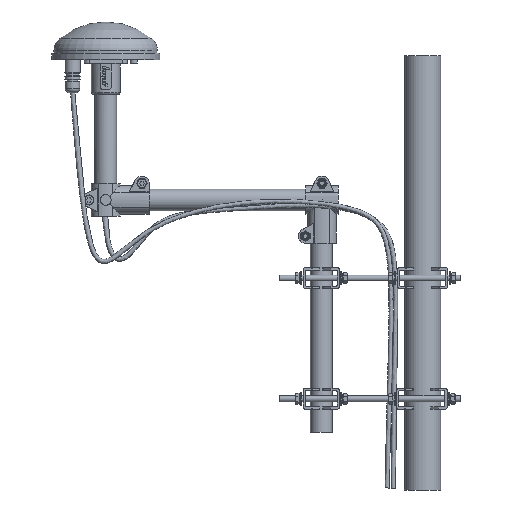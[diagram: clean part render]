
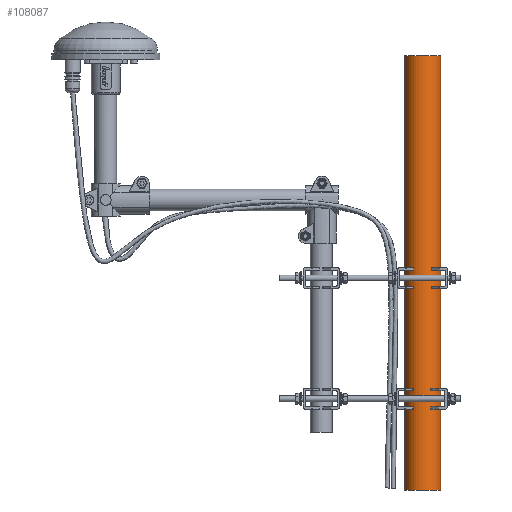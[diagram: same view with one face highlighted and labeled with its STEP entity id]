
A CAD part, front view. The second image highlights one B-rep face of the part: STEP entity #108087.
In plain terms, the highlighted cylindrical face has radius 25 mm (diameter 50 mm), a full revolution.
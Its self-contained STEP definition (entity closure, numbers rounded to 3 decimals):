
#108033 = PLANE('',#108034);
#108034 = AXIS2_PLACEMENT_3D('',#108035,#108036,#108037);
#108035 = CARTESIAN_POINT('',(0.,0.,600.));
#108036 = DIRECTION('',(-0.,0.,-1.));
#108037 = DIRECTION('',(1.,0.,-0.));
#108059 = EDGE_CURVE('',#108060,#108060,#108062,.T.);
#108060 = VERTEX_POINT('',#108061);
#108061 = CARTESIAN_POINT('',(25.,0.,600.));
#108062 = SURFACE_CURVE('',#108063,(#108068,#108075),.PCURVE_S1.);
#108063 = CIRCLE('',#108064,25.);
#108064 = AXIS2_PLACEMENT_3D('',#108065,#108066,#108067);
#108065 = CARTESIAN_POINT('',(0.,0.,600.));
#108066 = DIRECTION('',(0.,0.,-1.));
#108067 = DIRECTION('',(1.,0.,0.));
#108068 = PCURVE('',#108033,#108069);
#108069 = DEFINITIONAL_REPRESENTATION('',(#108070),#108074);
#108070 = CIRCLE('',#108071,25.);
#108071 = AXIS2_PLACEMENT_2D('',#108072,#108073);
#108072 = CARTESIAN_POINT('',(0.,0.));
#108073 = DIRECTION('',(1.,0.));
#108074 = ( GEOMETRIC_REPRESENTATION_CONTEXT(2) 
PARAMETRIC_REPRESENTATION_CONTEXT() REPRESENTATION_CONTEXT('2D SPACE',''
  ) );
#108075 = PCURVE('',#108076,#108081);
#108076 = CYLINDRICAL_SURFACE('',#108077,25.);
#108077 = AXIS2_PLACEMENT_3D('',#108078,#108079,#108080);
#108078 = CARTESIAN_POINT('',(0.,0.,600.));
#108079 = DIRECTION('',(-0.,0.,-1.));
#108080 = DIRECTION('',(1.,0.,0.));
#108081 = DEFINITIONAL_REPRESENTATION('',(#108082),#108086);
#108082 = LINE('',#108083,#108084);
#108083 = CARTESIAN_POINT('',(0.,0.));
#108084 = VECTOR('',#108085,1.);
#108085 = DIRECTION('',(1.,0.));
#108086 = ( GEOMETRIC_REPRESENTATION_CONTEXT(2) 
PARAMETRIC_REPRESENTATION_CONTEXT() REPRESENTATION_CONTEXT('2D SPACE',''
  ) );
#108087 = ADVANCED_FACE('',(#108088),#108076,.T.);
#108088 = FACE_BOUND('',#108089,.T.);
#108089 = EDGE_LOOP('',(#108090,#108091,#108114,#108141));
#108090 = ORIENTED_EDGE('',*,*,#108059,.T.);
#108091 = ORIENTED_EDGE('',*,*,#108092,.T.);
#108092 = EDGE_CURVE('',#108060,#108093,#108095,.T.);
#108093 = VERTEX_POINT('',#108094);
#108094 = CARTESIAN_POINT('',(25.,0.,0.));
#108095 = SEAM_CURVE('',#108096,(#108100,#108107),.PCURVE_S1.);
#108096 = LINE('',#108097,#108098);
#108097 = CARTESIAN_POINT('',(25.,0.,600.));
#108098 = VECTOR('',#108099,1.);
#108099 = DIRECTION('',(0.,0.,-1.));
#108100 = PCURVE('',#108076,#108101);
#108101 = DEFINITIONAL_REPRESENTATION('',(#108102),#108106);
#108102 = LINE('',#108103,#108104);
#108103 = CARTESIAN_POINT('',(6.283,0.));
#108104 = VECTOR('',#108105,1.);
#108105 = DIRECTION('',(0.,1.));
#108106 = ( GEOMETRIC_REPRESENTATION_CONTEXT(2) 
PARAMETRIC_REPRESENTATION_CONTEXT() REPRESENTATION_CONTEXT('2D SPACE',''
  ) );
#108107 = PCURVE('',#108076,#108108);
#108108 = DEFINITIONAL_REPRESENTATION('',(#108109),#108113);
#108109 = LINE('',#108110,#108111);
#108110 = CARTESIAN_POINT('',(0.,0.));
#108111 = VECTOR('',#108112,1.);
#108112 = DIRECTION('',(0.,1.));
#108113 = ( GEOMETRIC_REPRESENTATION_CONTEXT(2) 
PARAMETRIC_REPRESENTATION_CONTEXT() REPRESENTATION_CONTEXT('2D SPACE',''
  ) );
#108114 = ORIENTED_EDGE('',*,*,#108115,.F.);
#108115 = EDGE_CURVE('',#108093,#108093,#108116,.T.);
#108116 = SURFACE_CURVE('',#108117,(#108122,#108129),.PCURVE_S1.);
#108117 = CIRCLE('',#108118,25.);
#108118 = AXIS2_PLACEMENT_3D('',#108119,#108120,#108121);
#108119 = CARTESIAN_POINT('',(0.,0.,0.));
#108120 = DIRECTION('',(0.,0.,-1.));
#108121 = DIRECTION('',(1.,0.,0.));
#108122 = PCURVE('',#108076,#108123);
#108123 = DEFINITIONAL_REPRESENTATION('',(#108124),#108128);
#108124 = LINE('',#108125,#108126);
#108125 = CARTESIAN_POINT('',(0.,600.));
#108126 = VECTOR('',#108127,1.);
#108127 = DIRECTION('',(1.,0.));
#108128 = ( GEOMETRIC_REPRESENTATION_CONTEXT(2) 
PARAMETRIC_REPRESENTATION_CONTEXT() REPRESENTATION_CONTEXT('2D SPACE',''
  ) );
#108129 = PCURVE('',#108130,#108135);
#108130 = PLANE('',#108131);
#108131 = AXIS2_PLACEMENT_3D('',#108132,#108133,#108134);
#108132 = CARTESIAN_POINT('',(0.,0.,0.));
#108133 = DIRECTION('',(-0.,0.,-1.));
#108134 = DIRECTION('',(1.,0.,0.));
#108135 = DEFINITIONAL_REPRESENTATION('',(#108136),#108140);
#108136 = CIRCLE('',#108137,25.);
#108137 = AXIS2_PLACEMENT_2D('',#108138,#108139);
#108138 = CARTESIAN_POINT('',(0.,0.));
#108139 = DIRECTION('',(1.,0.));
#108140 = ( GEOMETRIC_REPRESENTATION_CONTEXT(2) 
PARAMETRIC_REPRESENTATION_CONTEXT() REPRESENTATION_CONTEXT('2D SPACE',''
  ) );
#108141 = ORIENTED_EDGE('',*,*,#108092,.F.);
